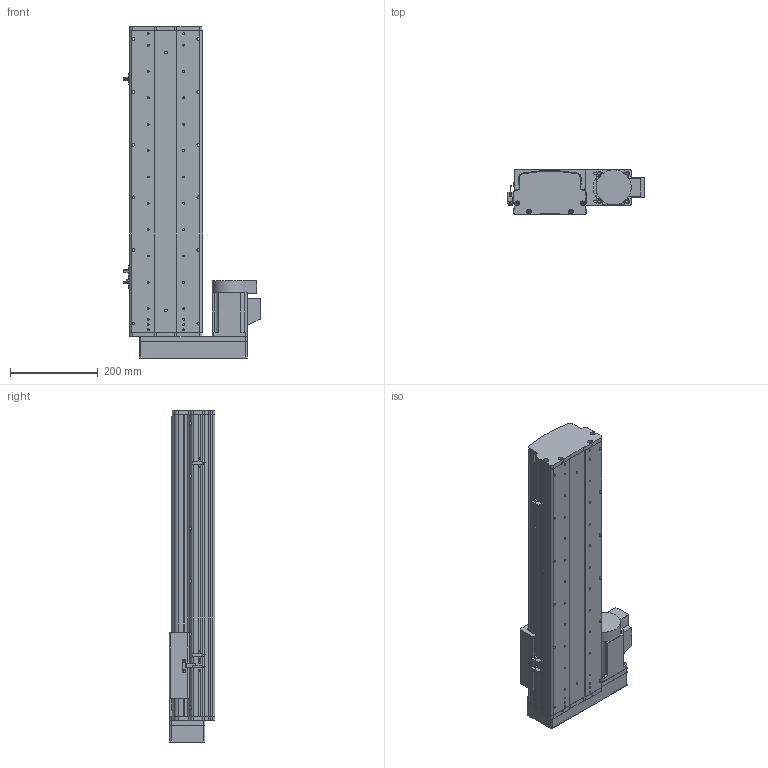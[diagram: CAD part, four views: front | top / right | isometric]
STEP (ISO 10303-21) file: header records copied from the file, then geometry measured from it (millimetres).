
FILE_DESCRIPTION (( 'STEP AP214' ), '1' );
FILE_NAME ('KSD165S-S450-ML-CM.STEP', '2017-10-17T08:47:53', ( '微软用户' ), ( '微软中国' ), 'SwSTEP 2.0', 'SolidWorks 2014', '' );
FILE_SCHEMA (( 'AUTOMOTIVE_DESIGN' ));
Length unit declared in the file: millimetre
Products named in the file (16): 拸秶雄ん750W侜督萇儂; 165宽模组马达安装板连板左右折丝杆; 165宽模组保护罩左右折; KSD165模组-防尘盖1-450行程-最新版; HTPA26S5M250-A-H8丝杆用(内径14）; KSD165模组底板-450行程-最新; KSD165耀郪-佪裝-滅袉菜-3 -; KSD165耀郪-佪裝-滅袉菜-1; 覜茼え68遵圉猾敕; HTPA26S5M250-A-H8 750W萇儂蚚; U倰嫖萇假蚾璃; U倰嫖萇EEㄜSX672; KSD165耀郪-綴傷啣1; KSD165模组-丝杆滑动座-最新版; KSD165S-S450-ML-CM; KSD165模组-丝杆上下左右折前端板
Assembly tree (19 placements, depth 2):
  KSD165S-S450-ML-CM
    KSD165模组-丝杆滑动座-最新版
    KSD165耀郪-綴傷啣1
    U倰嫖萇假蚾璃  x3
    KSD165耀郪-佪裝-滅袉菜-1
    KSD165耀郪-佪裝-滅袉菜-3 -
    KSD165模组底板-450行程-最新
    KSD165模组-防尘盖1-450行程-最新版
    165宽模组保护罩左右折
    165宽模组马达安装板连板左右折丝杆
    HTPA26S5M250-A-H8 750W萇儂蚚
    HTPA26S5M250-A-H8丝杆用(内径14）
    KSD165模组-丝杆上下左右折前端板
    拸秶雄ん750W侜督萇儂
    U倰嫖萇EEㄜSX672  x3
    覜茼え68遵圉猾敕
Bounding box: 311.2 x 104 x 755.5 mm (x, y, z)
Volume: 5389767.9 mm3; surface area: 1243471.9 mm2
Topology: 20 solids, 20 shells, 1777 faces, 5036 edges, 3291 vertices
Faces by surface type: cylinder 1139, plane 537, cone 101
Entity records: 57955 total; most frequent: CARTESIAN_POINT 12091, DIRECTION 9383, ORIENTED_EDGE 8760, EDGE_CURVE 4380, AXIS2_PLACEMENT_3D 3671, VERTEX_POINT 2883, CIRCLE 2092, VECTOR 2041
